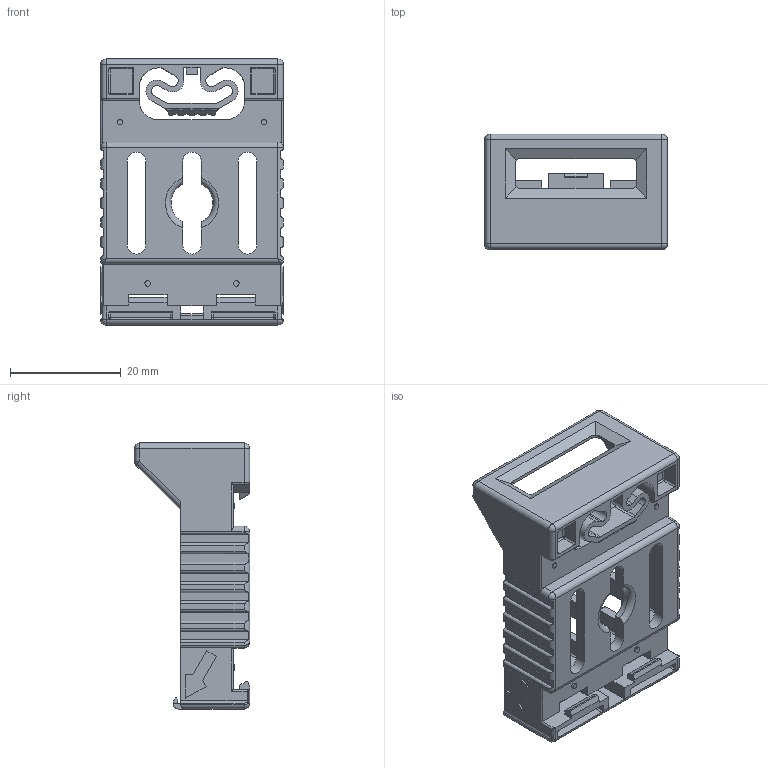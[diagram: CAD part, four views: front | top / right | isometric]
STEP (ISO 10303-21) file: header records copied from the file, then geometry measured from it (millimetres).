
FILE_DESCRIPTION (( 'STEP AP203' ), '1' );
FILE_NAME ('KNWSM-56.STEP', '2021-02-16T00:31:06', ( '' ), ( '' ), 'SwSTEP 2.0', 'SolidWorks 2018', '' );
FILE_SCHEMA (( 'CONFIG_CONTROL_DESIGN' ));
Length unit declared in the file: millimetre
Products named in the file (1): KNWSM-56
Bounding box: 33 x 20.8 x 48 mm (x, y, z)
Volume: 6484.3 mm3; surface area: 8793.5 mm2
Topology: 1 solids, 1 shells, 784 faces, 2121 edges, 1319 vertices
Faces by surface type: plane 401, cylinder 225, bspline 98, sphere 41, torus 19
Entity records: 27507 total; most frequent: CARTESIAN_POINT 8624, ORIENTED_EDGE 4156, DIRECTION 3541, EDGE_CURVE 2078, VECTOR 1393, LINE 1393, VERTEX_POINT 1319, AXIS2_PLACEMENT_3D 1074
